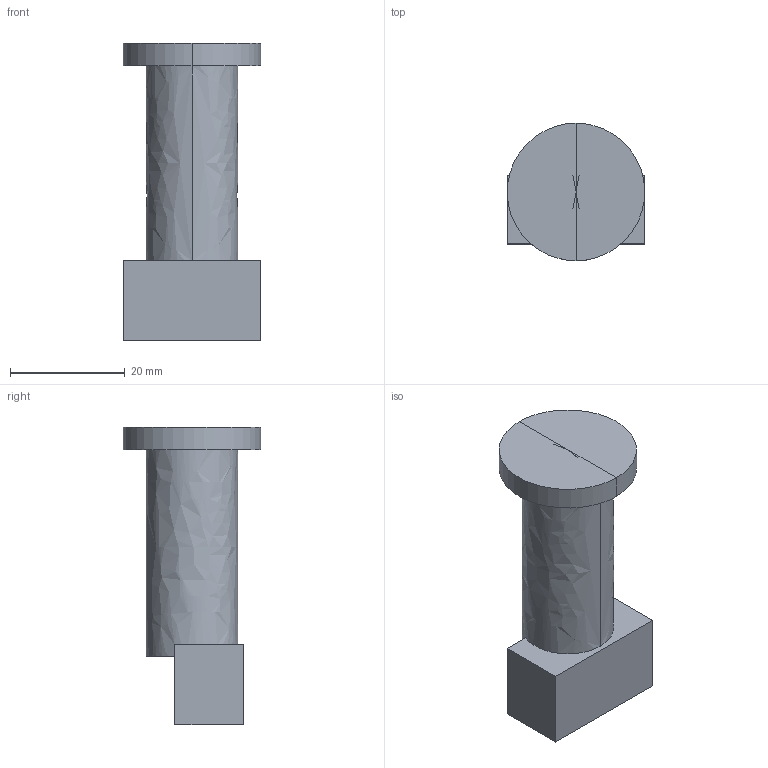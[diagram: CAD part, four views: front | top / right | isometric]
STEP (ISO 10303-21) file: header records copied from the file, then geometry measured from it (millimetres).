
FILE_DESCRIPTION(/* description */ (''),/* implementation_level */ '2;1');
FILE_NAME(/* name */ '9.electronics#9.4#la-estp',/* time_stamp */ '2014-12-01T20:18:51+01:00',/* author */ (''),/* organization */ (''),/* preprocessor_version */ 'ST-DEVELOPER v14',/* originating_system */ '',/* authorisation */ '');
FILE_SCHEMA (('AUTOMOTIVE_DESIGN'));
Length unit declared in the file: millimetre
Products named in the file (1): Document
Bounding box: 24 x 24 x 52 mm (x, y, z)
Volume: 12810.4 mm3; surface area: 4213.8 mm2
Topology: 1 solids, 1 shells, 16 faces, 38 edges, 22 vertices
Faces by surface type: bspline 10, plane 6
Entity records: 1008 total; most frequent: CARTESIAN_POINT 500, B_SPLINE_CURVE_WITH_KNOTS 98, ORIENTED_EDGE 72, PCURVE 72, DEFINITIONAL_REPRESENTATION 72, SURFACE_CURVE 36, EDGE_CURVE 36, VERTEX_POINT 22
